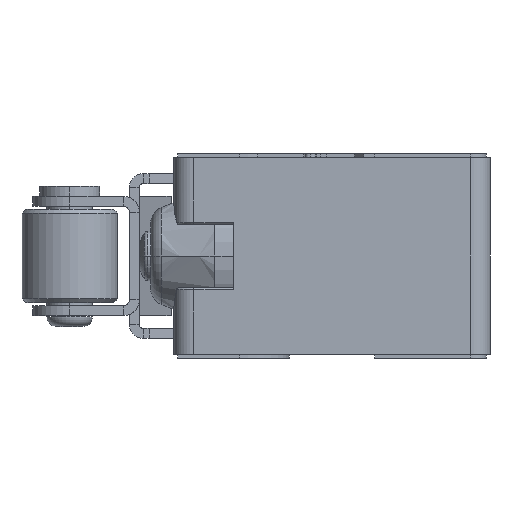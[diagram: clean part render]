
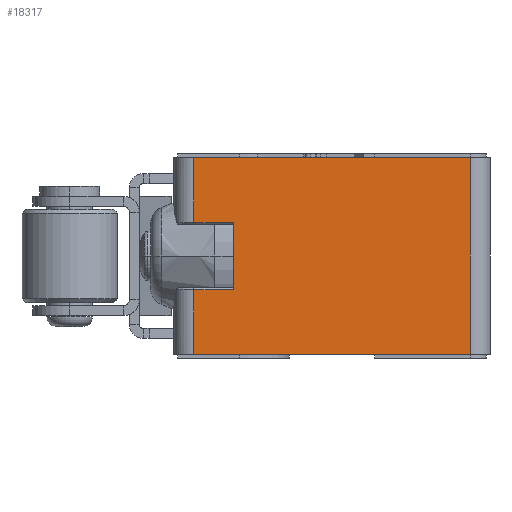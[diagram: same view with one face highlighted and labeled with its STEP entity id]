
A CAD part, left-side view. The second image highlights one B-rep face of the part: STEP entity #18317.
In plain terms, the highlighted planar face has unit normal (-1, 0, 0).
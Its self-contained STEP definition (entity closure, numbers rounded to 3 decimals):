
#44=DIRECTION('',(0.,1.,0.));
#45=VECTOR('',#44,13.9);
#46=CARTESIAN_POINT('',(0.,1.,-0.2));
#47=LINE('',#46,#45);
#2581=DIRECTION('',(0.,0.,-1.));
#2582=VECTOR('',#2581,3.4);
#2583=CARTESIAN_POINT('',(0.,12.9,-3.45));
#2584=LINE('',#2583,#2582);
#2709=DIRECTION('',(0.,1.,0.));
#2710=VECTOR('',#2709,13.9);
#2711=CARTESIAN_POINT('',(0.,1.,-10.1));
#2712=LINE('',#2711,#2710);
#2907=DIRECTION('',(0.,-1.,0.));
#2908=VECTOR('',#2907,2.);
#2909=CARTESIAN_POINT('',(0.,14.9,-3.45));
#2910=LINE('',#2909,#2908);
#2911=DIRECTION('',(0.,0.,1.));
#2912=VECTOR('',#2911,3.25);
#2913=CARTESIAN_POINT('',(0.,14.9,-3.45));
#2914=LINE('',#2913,#2912);
#2915=DIRECTION('',(0.,0.,1.));
#2916=VECTOR('',#2915,9.9);
#2917=CARTESIAN_POINT('',(0.,1.,-10.1));
#2918=LINE('',#2917,#2916);
#2919=DIRECTION('',(0.,0.,1.));
#2920=VECTOR('',#2919,3.25);
#2921=CARTESIAN_POINT('',(0.,14.9,-10.1));
#2922=LINE('',#2921,#2920);
#2923=DIRECTION('',(0.,1.,0.));
#2924=VECTOR('',#2923,2.);
#2925=CARTESIAN_POINT('',(0.,12.9,-6.85));
#2926=LINE('',#2925,#2924);
#12785=CARTESIAN_POINT('',(0.,1.,-0.2));
#12787=VERTEX_POINT('',#12785);
#12791=CARTESIAN_POINT('',(0.,1.,-10.1));
#12792=VERTEX_POINT('',#12791);
#12794=CARTESIAN_POINT('',(0.,14.9,-0.2));
#12796=VERTEX_POINT('',#12794);
#12797=CARTESIAN_POINT('',(0.,14.9,-10.1));
#12799=VERTEX_POINT('',#12797);
#13186=CARTESIAN_POINT('',(0.,14.9,-3.45));
#13187=CARTESIAN_POINT('',(0.,12.9,-3.45));
#13188=VERTEX_POINT('',#13186);
#13189=VERTEX_POINT('',#13187);
#13242=CARTESIAN_POINT('',(0.,12.9,-6.85));
#13243=CARTESIAN_POINT('',(0.,14.9,-6.85));
#13244=VERTEX_POINT('',#13242);
#13245=VERTEX_POINT('',#13243);
#18298=CARTESIAN_POINT('',(0.,0.,-0.2));
#18299=DIRECTION('',(-1.,0.,0.));
#18300=DIRECTION('',(0.,1.,0.));
#18301=AXIS2_PLACEMENT_3D('',#18298,#18299,#18300);
#18302=PLANE('',#18301);
#18304=ORIENTED_EDGE('',*,*,#18303,.F.);
#18306=ORIENTED_EDGE('',*,*,#18305,.T.);
#18307=ORIENTED_EDGE('',*,*,#16485,.F.);
#18309=ORIENTED_EDGE('',*,*,#18308,.F.);
#18310=ORIENTED_EDGE('',*,*,#18110,.T.);
#18312=ORIENTED_EDGE('',*,*,#18311,.T.);
#18313=ORIENTED_EDGE('',*,*,#18289,.F.);
#18314=ORIENTED_EDGE('',*,*,#17959,.F.);
#18315=EDGE_LOOP('',(#18304,#18306,#18307,#18309,#18310,#18312,#18313,#18314));
#18316=FACE_OUTER_BOUND('',#18315,.F.);
#18317=ADVANCED_FACE('',(#18316),#18302,.T.);
#16485=EDGE_CURVE('',#12787,#12796,#47,.T.);
#17959=EDGE_CURVE('',#13189,#13244,#2584,.T.);
#18110=EDGE_CURVE('',#12792,#12799,#2712,.T.);
#18289=EDGE_CURVE('',#13244,#13245,#2926,.T.);
#18303=EDGE_CURVE('',#13188,#13189,#2910,.T.);
#18305=EDGE_CURVE('',#13188,#12796,#2914,.T.);
#18308=EDGE_CURVE('',#12792,#12787,#2918,.T.);
#18311=EDGE_CURVE('',#12799,#13245,#2922,.T.);
